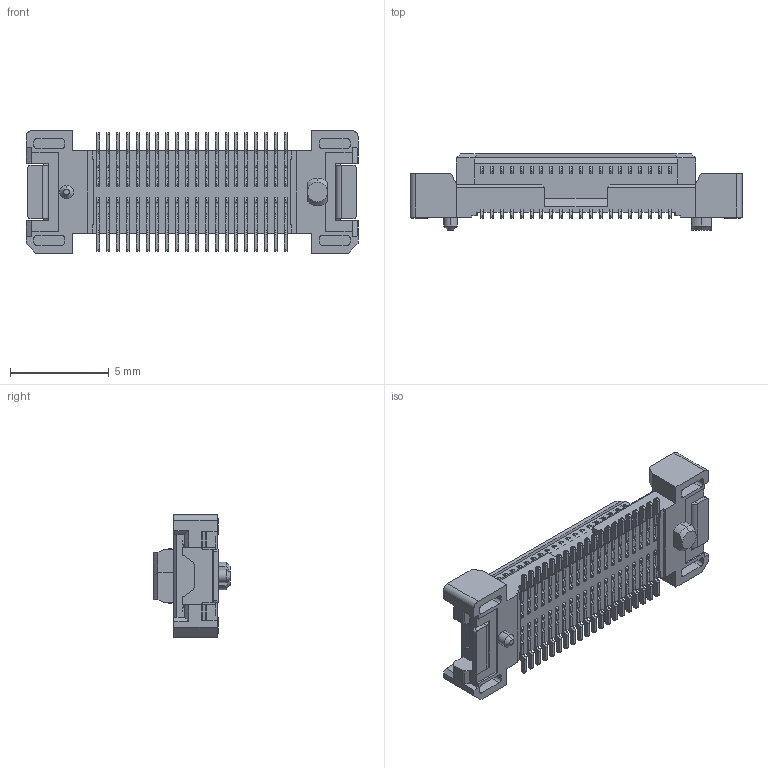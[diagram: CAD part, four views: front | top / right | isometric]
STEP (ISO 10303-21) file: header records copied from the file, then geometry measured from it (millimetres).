
FILE_DESCRIPTION (( 'STEP AP214' ), '1' );
FILE_NAME ('402-51701-5x_3D.STEP', '2018-03-26T11:34:37', ( '' ), ( '' ), 'SwSTEP 2.0', 'SolidWorks 2016', '' );
FILE_SCHEMA (( 'AUTOMOTIVE_DESIGN' ));
Length unit declared in the file: millimetre
Products named in the file (1): 402-51701-5x_3D
Bounding box: 16.8 x 3.85 x 6.2 mm (x, y, z)
Volume: 143 mm3; surface area: 424.9 mm2
Topology: 1 solids, 1 shells, 1560 faces, 4306 edges, 2801 vertices
Faces by surface type: plane 947, cylinder 594, bspline 14, cone 5
Entity records: 67111 total; most frequent: CARTESIAN_POINT 9014, DIRECTION 8715, ORIENTED_EDGE 8612, EDGE_CURVE 4306, VECTOR 2919, LINE 2919, AXIS2_PLACEMENT_3D 2898, VERTEX_POINT 2801
